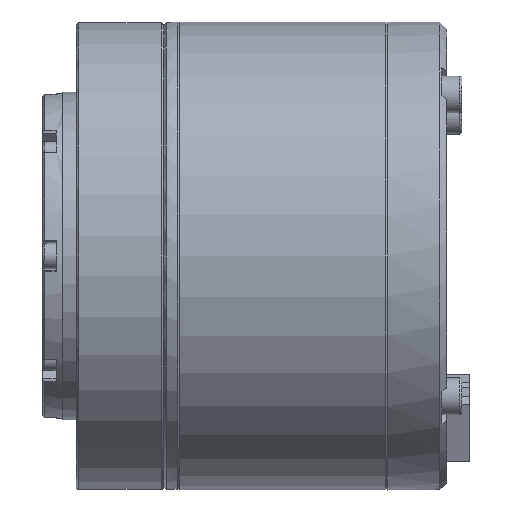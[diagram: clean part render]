
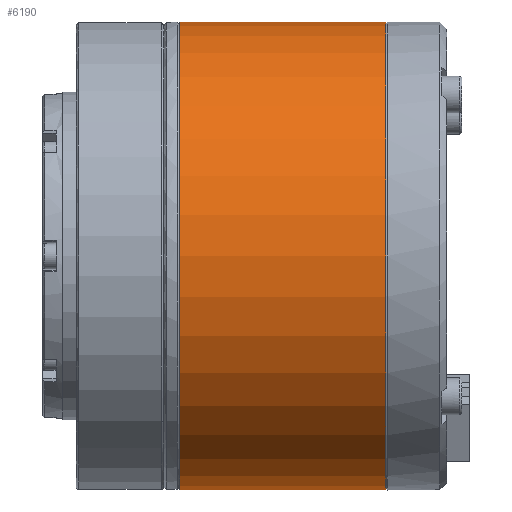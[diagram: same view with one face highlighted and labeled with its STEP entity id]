
A CAD part, front view. The second image highlights one B-rep face of the part: STEP entity #6190.
In plain terms, the highlighted cylindrical face has radius 35 mm (diameter 70 mm), a full revolution.
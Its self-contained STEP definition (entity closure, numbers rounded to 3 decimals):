
#728 = DIRECTION ( 'NONE',  ( -1., 0., 0. ) ) ;
#5406 = AXIS2_PLACEMENT_3D ( 'NONE', #7872, #76052, #96514 ) ;
#6190 = ADVANCED_FACE ( 'NONE', ( #29777, #51687 ), #59649, .T. ) ;
#7872 = CARTESIAN_POINT ( 'NONE',  ( 66.419, 0., 0. ) ) ;
#12450 = CARTESIAN_POINT ( 'NONE',  ( 26.519, 0., 0. ) ) ;
#13424 = DIRECTION ( 'NONE',  ( -1., 0., 0. ) ) ;
#20613 = EDGE_LOOP ( 'NONE', ( #66788 ) ) ;
#20894 = DIRECTION ( 'NONE',  ( 0., 0., -1. ) ) ;
#24912 = AXIS2_PLACEMENT_3D ( 'NONE', #45544, #728, #44572 ) ;
#29777 = FACE_OUTER_BOUND ( 'NONE', #63720, .T. ) ;
#39453 = EDGE_CURVE ( 'NONE', #94220, #94220, #90497, .T. ) ;
#44572 = DIRECTION ( 'NONE',  ( 0., 0., 1. ) ) ;
#45267 = ORIENTED_EDGE ( 'NONE', *, *, #39453, .F. ) ;
#45544 = CARTESIAN_POINT ( 'NONE',  ( 57.319, 0., 0. ) ) ;
#46356 = CARTESIAN_POINT ( 'NONE',  ( 57.319, 0., 35. ) ) ;
#47917 = CARTESIAN_POINT ( 'NONE',  ( 26.519, 0., -35. ) ) ;
#51687 = FACE_OUTER_BOUND ( 'NONE', #20613, .T. ) ;
#59649 = CYLINDRICAL_SURFACE ( 'NONE', #5406, 35. ) ;
#60778 = VERTEX_POINT ( 'NONE', #46356 ) ;
#63720 = EDGE_LOOP ( 'NONE', ( #45267 ) ) ;
#66788 = ORIENTED_EDGE ( 'NONE', *, *, #91375, .T. ) ;
#67841 = CIRCLE ( 'NONE', #24912, 35. ) ;
#76052 = DIRECTION ( 'NONE',  ( -1., 0., 0. ) ) ;
#88875 = AXIS2_PLACEMENT_3D ( 'NONE', #12450, #13424, #20894 ) ;
#90497 = CIRCLE ( 'NONE', #88875, 35. ) ;
#91375 = EDGE_CURVE ( 'NONE', #60778, #60778, #67841, .T. ) ;
#94220 = VERTEX_POINT ( 'NONE', #47917 ) ;
#96514 = DIRECTION ( 'NONE',  ( 0., 0.924, -0.383 ) ) ;
